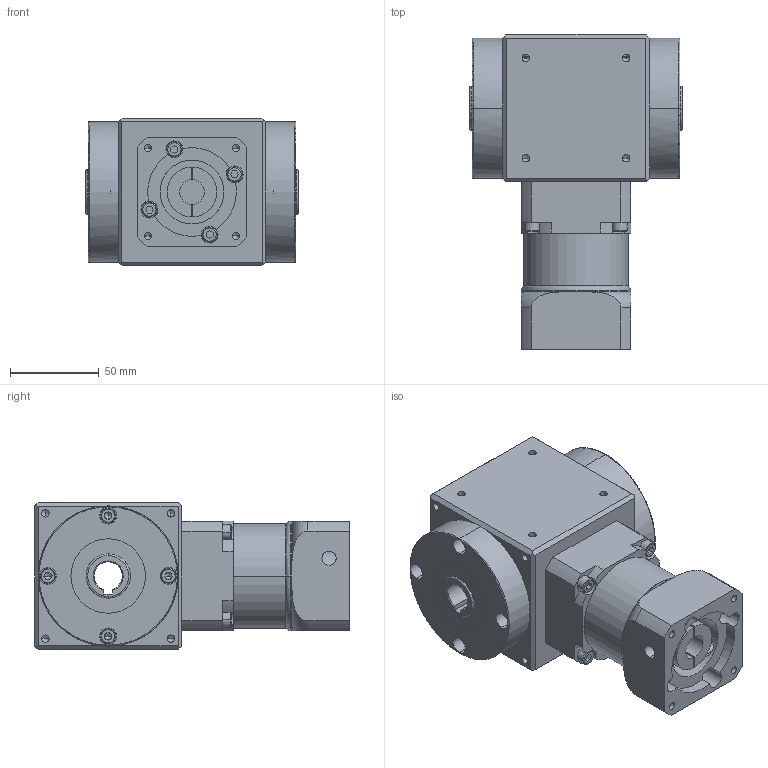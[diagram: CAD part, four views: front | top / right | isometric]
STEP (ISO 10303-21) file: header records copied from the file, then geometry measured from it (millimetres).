
FILE_DESCRIPTION (( 'STEP AP214' ), '1' );
FILE_NAME ('RAH060-L1-XX-H-14-50-70-M5_2019.STEP', '2019-03-22T10:31:16', ( 'Y' ), ( 'NCU' ), 'SwSTEP 2.0', 'SolidWorks 2016', '' );
FILE_SCHEMA (( 'AUTOMOTIVE_DESIGN' ));
Length unit declared in the file: millimetre
Products named in the file (1): RAH060-L1-XX-H-14-50-70-M5_2019
Bounding box: 120 x 177.5 x 83 mm (x, y, z)
Volume: 989697.3 mm3; surface area: 109083.9 mm2
Topology: 2 solids, 10 shells, 578 faces, 1420 edges, 877 vertices
Faces by surface type: plane 260, cylinder 203, cone 87, bspline 24, torus 4
Entity records: 18387 total; most frequent: CARTESIAN_POINT 3940, DIRECTION 2919, ORIENTED_EDGE 2728, EDGE_CURVE 1364, AXIS2_PLACEMENT_3D 1100, VERTEX_POINT 877, LINE 719, VECTOR 719
